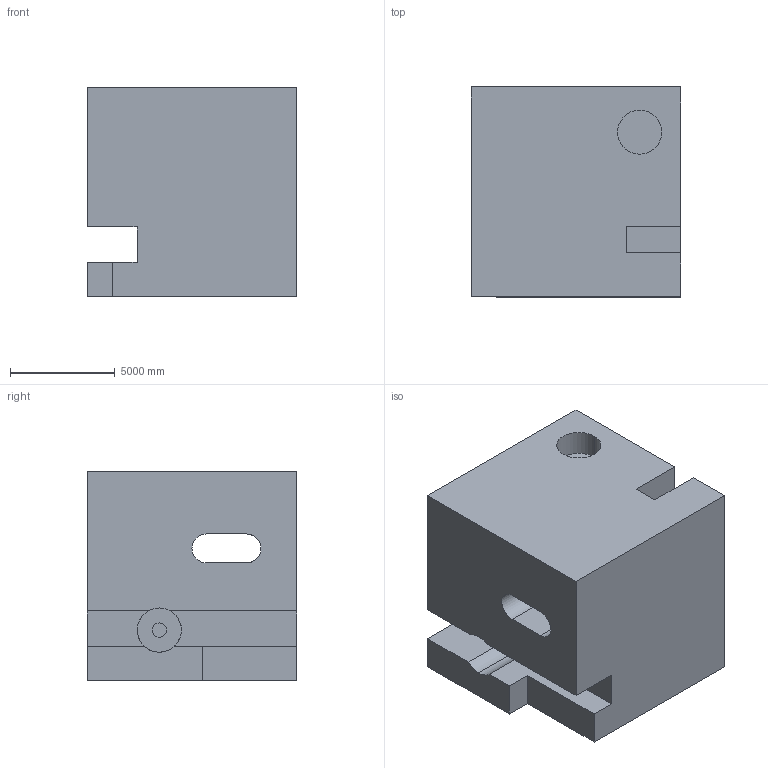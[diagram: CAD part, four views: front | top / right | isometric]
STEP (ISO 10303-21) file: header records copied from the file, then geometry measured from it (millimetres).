
FILE_DESCRIPTION (( 'STEP AP203' ), '1' );
FILE_NAME ('531.STEP', '2022-07-29T11:40:58', ( 'user' ), ( '' ), 'SwSTEP 2.0', 'SolidWorks 2021', '' );
FILE_SCHEMA (( 'CONFIG_CONTROL_DESIGN' ));
Length unit declared in the file: centimetre
Products named in the file (1): 531
Bounding box: 10000 x 10000 x 10000 mm (x, y, z)
Volume: 870673425634 mm3; surface area: 781616879.3 mm2
Topology: 1 solids, 1 shells, 35 faces, 96 edges, 64 vertices
Faces by surface type: plane 27, cylinder 8
Entity records: 1193 total; most frequent: CARTESIAN_POINT 196, ORIENTED_EDGE 192, DIRECTION 190, EDGE_CURVE 96, VECTOR 74, LINE 74, VERTEX_POINT 64, AXIS2_PLACEMENT_3D 58
